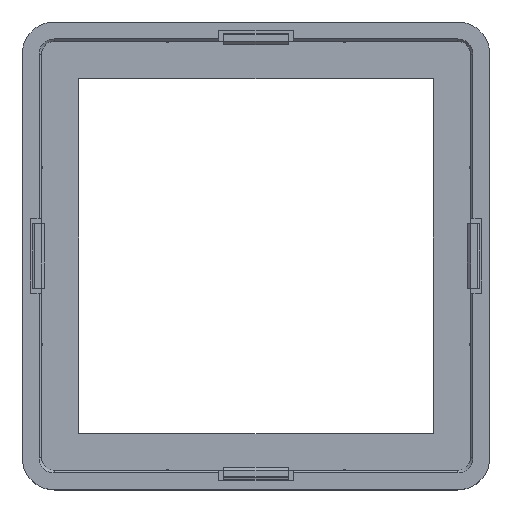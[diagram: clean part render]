
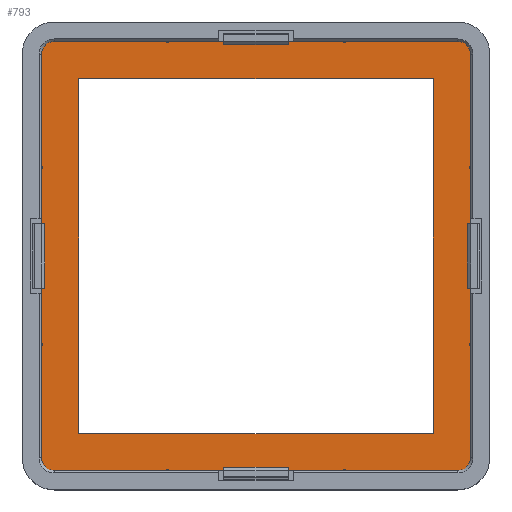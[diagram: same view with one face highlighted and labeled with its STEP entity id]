
A CAD part, top view. The second image highlights one B-rep face of the part: STEP entity #793.
In plain terms, the highlighted free-form (B-spline) face has degree [1, 1] with [2, 2] control points.
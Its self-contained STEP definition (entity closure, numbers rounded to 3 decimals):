
#263 = EDGE_CURVE('',#264,#266,#268,.T.);
#264 = VERTEX_POINT('',#265);
#265 = CARTESIAN_POINT('',(-26.6,25.,1.4));
#266 = VERTEX_POINT('',#267);
#267 = CARTESIAN_POINT('',(-26.6,-25.,1.4));
#268 = B_SPLINE_CURVE_WITH_KNOTS('',1,(#269,#270),.UNSPECIFIED.,.F.,.F.,
  (2,2),(1.6,51.6),.PIECEWISE_BEZIER_KNOTS.);
#269 = CARTESIAN_POINT('',(-26.6,25.,1.4));
#270 = CARTESIAN_POINT('',(-26.6,-25.,1.4));
#793 = ADVANCED_FACE('',(#794,#848),#878,.F.);
#794 = FACE_BOUND('',#795,.F.);
#795 = EDGE_LOOP('',(#796,#797,#805,#812,#820,#827,#835,#842));
#796 = ORIENTED_EDGE('',*,*,#263,.F.);
#797 = ORIENTED_EDGE('',*,*,#798,.T.);
#798 = EDGE_CURVE('',#264,#799,#801,.T.);
#799 = VERTEX_POINT('',#800);
#800 = CARTESIAN_POINT('',(-25.,26.6,1.4));
#801 = ( BOUNDED_CURVE() B_SPLINE_CURVE(2,(#802,#803,#804),
.UNSPECIFIED.,.F.,.F.) B_SPLINE_CURVE_WITH_KNOTS((3,3),(4.712,
6.283),.PIECEWISE_BEZIER_KNOTS.) CURVE() 
GEOMETRIC_REPRESENTATION_ITEM() RATIONAL_B_SPLINE_CURVE((1.,
0.707,1.)) REPRESENTATION_ITEM('') );
#802 = CARTESIAN_POINT('',(-26.6,25.,1.4));
#803 = CARTESIAN_POINT('',(-26.6,26.6,1.4));
#804 = CARTESIAN_POINT('',(-25.,26.6,1.4));
#805 = ORIENTED_EDGE('',*,*,#806,.T.);
#806 = EDGE_CURVE('',#799,#807,#809,.T.);
#807 = VERTEX_POINT('',#808);
#808 = CARTESIAN_POINT('',(25.,26.6,1.4));
#809 = B_SPLINE_CURVE_WITH_KNOTS('',1,(#810,#811),.UNSPECIFIED.,.F.,.F.,
  (2,2),(1.6,51.6),.PIECEWISE_BEZIER_KNOTS.);
#810 = CARTESIAN_POINT('',(-25.,26.6,1.4));
#811 = CARTESIAN_POINT('',(25.,26.6,1.4));
#812 = ORIENTED_EDGE('',*,*,#813,.F.);
#813 = EDGE_CURVE('',#814,#807,#816,.T.);
#814 = VERTEX_POINT('',#815);
#815 = CARTESIAN_POINT('',(26.6,25.,1.4));
#816 = ( BOUNDED_CURVE() B_SPLINE_CURVE(2,(#817,#818,#819),
.UNSPECIFIED.,.F.,.F.) B_SPLINE_CURVE_WITH_KNOTS((3,3),(4.712,
6.283),.PIECEWISE_BEZIER_KNOTS.) CURVE() 
GEOMETRIC_REPRESENTATION_ITEM() RATIONAL_B_SPLINE_CURVE((1.,
0.707,1.)) REPRESENTATION_ITEM('') );
#817 = CARTESIAN_POINT('',(26.6,25.,1.4));
#818 = CARTESIAN_POINT('',(26.6,26.6,1.4));
#819 = CARTESIAN_POINT('',(25.,26.6,1.4));
#820 = ORIENTED_EDGE('',*,*,#821,.T.);
#821 = EDGE_CURVE('',#814,#822,#824,.T.);
#822 = VERTEX_POINT('',#823);
#823 = CARTESIAN_POINT('',(26.6,-25.,1.4));
#824 = B_SPLINE_CURVE_WITH_KNOTS('',1,(#825,#826),.UNSPECIFIED.,.F.,.F.,
  (2,2),(1.6,51.6),.PIECEWISE_BEZIER_KNOTS.);
#825 = CARTESIAN_POINT('',(26.6,25.,1.4));
#826 = CARTESIAN_POINT('',(26.6,-25.,1.4));
#827 = ORIENTED_EDGE('',*,*,#828,.T.);
#828 = EDGE_CURVE('',#822,#829,#831,.T.);
#829 = VERTEX_POINT('',#830);
#830 = CARTESIAN_POINT('',(25.,-26.6,1.4));
#831 = ( BOUNDED_CURVE() B_SPLINE_CURVE(2,(#832,#833,#834),
.UNSPECIFIED.,.F.,.F.) B_SPLINE_CURVE_WITH_KNOTS((3,3),(1.571,
3.142),.PIECEWISE_BEZIER_KNOTS.) CURVE() 
GEOMETRIC_REPRESENTATION_ITEM() RATIONAL_B_SPLINE_CURVE((1.,
0.707,1.)) REPRESENTATION_ITEM('') );
#832 = CARTESIAN_POINT('',(26.6,-25.,1.4));
#833 = CARTESIAN_POINT('',(26.6,-26.6,1.4));
#834 = CARTESIAN_POINT('',(25.,-26.6,1.4));
#835 = ORIENTED_EDGE('',*,*,#836,.F.);
#836 = EDGE_CURVE('',#837,#829,#839,.T.);
#837 = VERTEX_POINT('',#838);
#838 = CARTESIAN_POINT('',(-25.,-26.6,1.4));
#839 = B_SPLINE_CURVE_WITH_KNOTS('',1,(#840,#841),.UNSPECIFIED.,.F.,.F.,
  (2,2),(1.6,51.6),.PIECEWISE_BEZIER_KNOTS.);
#840 = CARTESIAN_POINT('',(-25.,-26.6,1.4));
#841 = CARTESIAN_POINT('',(25.,-26.6,1.4));
#842 = ORIENTED_EDGE('',*,*,#843,.F.);
#843 = EDGE_CURVE('',#266,#837,#844,.T.);
#844 = ( BOUNDED_CURVE() B_SPLINE_CURVE(2,(#845,#846,#847),
.UNSPECIFIED.,.F.,.F.) B_SPLINE_CURVE_WITH_KNOTS((3,3),(1.571,
3.142),.PIECEWISE_BEZIER_KNOTS.) CURVE() 
GEOMETRIC_REPRESENTATION_ITEM() RATIONAL_B_SPLINE_CURVE((1.,
0.707,1.)) REPRESENTATION_ITEM('') );
#845 = CARTESIAN_POINT('',(-26.6,-25.,1.4));
#846 = CARTESIAN_POINT('',(-26.6,-26.6,1.4));
#847 = CARTESIAN_POINT('',(-25.,-26.6,1.4));
#848 = FACE_BOUND('',#849,.F.);
#849 = EDGE_LOOP('',(#850,#859,#866,#873));
#850 = ORIENTED_EDGE('',*,*,#851,.T.);
#851 = EDGE_CURVE('',#852,#854,#856,.T.);
#852 = VERTEX_POINT('',#853);
#853 = CARTESIAN_POINT('',(22.,22.,1.4));
#854 = VERTEX_POINT('',#855);
#855 = CARTESIAN_POINT('',(-22.,22.,1.4));
#856 = B_SPLINE_CURVE_WITH_KNOTS('',1,(#857,#858),.UNSPECIFIED.,.F.,.F.,
  (2,2),(-46.3,-2.3),.PIECEWISE_BEZIER_KNOTS.);
#857 = CARTESIAN_POINT('',(22.,22.,1.4));
#858 = CARTESIAN_POINT('',(-22.,22.,1.4));
#859 = ORIENTED_EDGE('',*,*,#860,.T.);
#860 = EDGE_CURVE('',#854,#861,#863,.T.);
#861 = VERTEX_POINT('',#862);
#862 = CARTESIAN_POINT('',(-22.,-22.,1.4));
#863 = B_SPLINE_CURVE_WITH_KNOTS('',1,(#864,#865),.UNSPECIFIED.,.F.,.F.,
  (2,2),(2.3,46.3),.PIECEWISE_BEZIER_KNOTS.);
#864 = CARTESIAN_POINT('',(-22.,22.,1.4));
#865 = CARTESIAN_POINT('',(-22.,-22.,1.4));
#866 = ORIENTED_EDGE('',*,*,#867,.F.);
#867 = EDGE_CURVE('',#868,#861,#870,.T.);
#868 = VERTEX_POINT('',#869);
#869 = CARTESIAN_POINT('',(22.,-22.,1.4));
#870 = B_SPLINE_CURVE_WITH_KNOTS('',1,(#871,#872),.UNSPECIFIED.,.F.,.F.,
  (2,2),(-46.3,-2.3),.PIECEWISE_BEZIER_KNOTS.);
#871 = CARTESIAN_POINT('',(22.,-22.,1.4));
#872 = CARTESIAN_POINT('',(-22.,-22.,1.4));
#873 = ORIENTED_EDGE('',*,*,#874,.F.);
#874 = EDGE_CURVE('',#852,#868,#875,.T.);
#875 = B_SPLINE_CURVE_WITH_KNOTS('',1,(#876,#877),.UNSPECIFIED.,.F.,.F.,
  (2,2),(2.3,46.3),.PIECEWISE_BEZIER_KNOTS.);
#876 = CARTESIAN_POINT('',(22.,22.,1.4));
#877 = CARTESIAN_POINT('',(22.,-22.,1.4));
#878 = B_SPLINE_SURFACE_WITH_KNOTS('',1,1,(
    (#879,#880)
    ,(#881,#882
    )),.UNSPECIFIED.,.F.,.F.,.F.,(2,2),(2,2),(0.,53.2),(0.,53.2),
  .PIECEWISE_BEZIER_KNOTS.);
#879 = CARTESIAN_POINT('',(-26.6,26.6,1.4));
#880 = CARTESIAN_POINT('',(-26.6,-26.6,1.4));
#881 = CARTESIAN_POINT('',(26.6,26.6,1.4));
#882 = CARTESIAN_POINT('',(26.6,-26.6,1.4));
